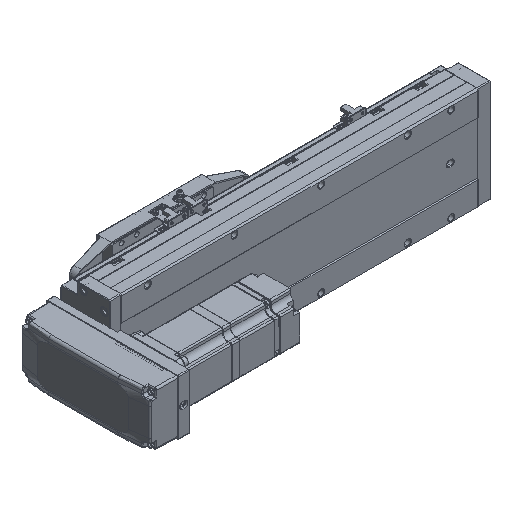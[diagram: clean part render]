
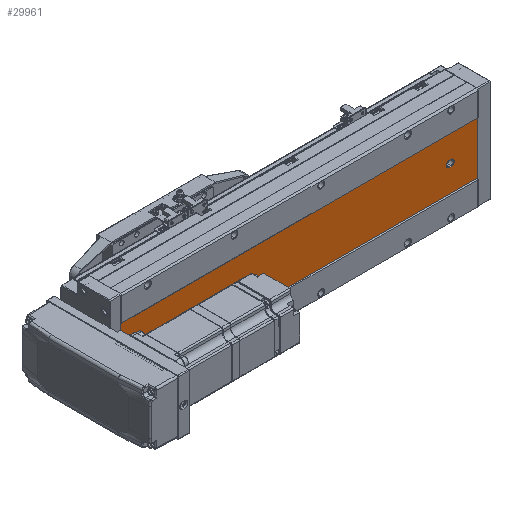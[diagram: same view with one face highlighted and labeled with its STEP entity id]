
A CAD part, isometric view. The second image highlights one B-rep face of the part: STEP entity #29961.
In plain terms, the highlighted planar face has unit normal (0, -1, 0).
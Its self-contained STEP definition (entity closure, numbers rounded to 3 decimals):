
#27 = CARTESIAN_POINT ( 'NONE',  ( -39.892, -52.848, 281. ) ) ;
#2461 = EDGE_LOOP ( 'NONE', ( #71312, #59655 ) ) ;
#2577 = EDGE_LOOP ( 'NONE', ( #58741, #46847, #66175, #42325 ) ) ;
#2635 = CARTESIAN_POINT ( 'NONE',  ( -39.892, -52.848, 381. ) ) ;
#2877 = VERTEX_POINT ( 'NONE', #9969 ) ;
#3880 = EDGE_CURVE ( 'NONE', #37691, #49105, #65696, .T. ) ;
#4257 = AXIS2_PLACEMENT_3D ( 'NONE', #56110, #12144, #67209 ) ;
#5388 = EDGE_CURVE ( 'NONE', #64714, #54313, #25136, .T. ) ;
#5497 = EDGE_CURVE ( 'NONE', #65164, #64714, #60189, .T. ) ;
#5591 = CARTESIAN_POINT ( 'NONE',  ( -69.892, -52.848, 411. ) ) ;
#6230 = EDGE_CURVE ( 'NONE', #71425, #2877, #43583, .T. ) ;
#6611 = CIRCLE ( 'NONE', #30178, 3.5 ) ;
#7094 = CARTESIAN_POINT ( 'NONE',  ( -39.892, -52.848, 26.5 ) ) ;
#7790 = EDGE_LOOP ( 'NONE', ( #20311, #13518 ) ) ;
#9260 = VECTOR ( 'NONE', #11739, 1000. ) ;
#9312 = CARTESIAN_POINT ( 'NONE',  ( -69.892, -52.848, 0. ) ) ;
#9832 = CARTESIAN_POINT ( 'NONE',  ( -69.892, -52.848, 411. ) ) ;
#9969 = CARTESIAN_POINT ( 'NONE',  ( -69.892, -52.848, 0. ) ) ;
#11087 = DIRECTION ( 'NONE',  ( 0., 0., 1. ) ) ;
#11739 = DIRECTION ( 'NONE',  ( 0., 0., 1. ) ) ;
#12144 = DIRECTION ( 'NONE',  ( 0., 1., 0. ) ) ;
#12425 = VERTEX_POINT ( 'NONE', #49520 ) ;
#13518 = ORIENTED_EDGE ( 'NONE', *, *, #3880, .T. ) ;
#15503 = VERTEX_POINT ( 'NONE', #33104 ) ;
#15842 = CARTESIAN_POINT ( 'NONE',  ( -9.892, -52.848, 411. ) ) ;
#15928 = DIRECTION ( 'NONE',  ( 1., 0., 0. ) ) ;
#16330 = DIRECTION ( 'NONE',  ( 0., 0., -1. ) ) ;
#16457 = LINE ( 'NONE', #9312, #59503 ) ;
#16673 = AXIS2_PLACEMENT_3D ( 'NONE', #63813, #52238, #40212 ) ;
#16804 = DIRECTION ( 'NONE',  ( 0., 1., 0. ) ) ;
#17876 = ORIENTED_EDGE ( 'NONE', *, *, #70402, .T. ) ;
#18229 = CARTESIAN_POINT ( 'NONE',  ( -69.892, -52.848, 411. ) ) ;
#19267 = DIRECTION ( 'NONE',  ( 0., 0., 1. ) ) ;
#19452 = VECTOR ( 'NONE', #16330, 1000. ) ;
#19861 = DIRECTION ( 'NONE',  ( 0., 0., 1. ) ) ;
#20311 = ORIENTED_EDGE ( 'NONE', *, *, #64440, .T. ) ;
#21467 = CARTESIAN_POINT ( 'NONE',  ( -36.392, -52.848, 30. ) ) ;
#22127 = ORIENTED_EDGE ( 'NONE', *, *, #5497, .T. ) ;
#22797 = VECTOR ( 'NONE', #72150, 1000. ) ;
#23066 = CARTESIAN_POINT ( 'NONE',  ( -39.892, -52.848, 384.5 ) ) ;
#23372 = VERTEX_POINT ( 'NONE', #65799 ) ;
#23843 = FACE_BOUND ( 'NONE', #24535, .T. ) ;
#23846 = EDGE_CURVE ( 'NONE', #23372, #38112, #54380, .T. ) ;
#24271 = VERTEX_POINT ( 'NONE', #67787 ) ;
#24535 = EDGE_LOOP ( 'NONE', ( #17876, #22127, #62875, #63284, #52079 ) ) ;
#25136 = CIRCLE ( 'NONE', #16673, 3.5 ) ;
#26250 = CARTESIAN_POINT ( 'NONE',  ( -36.392, -52.848, 411. ) ) ;
#29961 = ADVANCED_FACE ( 'NONE', ( #23843, #51894, #44003, #53695 ), #59930, .F. ) ;
#30178 = AXIS2_PLACEMENT_3D ( 'NONE', #55787, #67125, #11087 ) ;
#31793 = LINE ( 'NONE', #15842, #19452 ) ;
#33104 = CARTESIAN_POINT ( 'NONE',  ( -43.392, -52.848, 30. ) ) ;
#33578 = CARTESIAN_POINT ( 'NONE',  ( -69.892, -52.848, 411. ) ) ;
#33613 = AXIS2_PLACEMENT_3D ( 'NONE', #69337, #41265, #46471 ) ;
#34414 = EDGE_CURVE ( 'NONE', #15503, #24271, #39100, .T. ) ;
#37691 = VERTEX_POINT ( 'NONE', #23066 ) ;
#37802 = DIRECTION ( 'NONE',  ( 0., 0., 1. ) ) ;
#38112 = VERTEX_POINT ( 'NONE', #49454 ) ;
#38239 = AXIS2_PLACEMENT_3D ( 'NONE', #52875, #58512, #19267 ) ;
#38494 = CARTESIAN_POINT ( 'NONE',  ( -36.392, -52.848, 32. ) ) ;
#39100 = LINE ( 'NONE', #67773, #9260 ) ;
#40056 = VECTOR ( 'NONE', #55682, 1000. ) ;
#40212 = DIRECTION ( 'NONE',  ( 0., 0., 1. ) ) ;
#40430 = AXIS2_PLACEMENT_3D ( 'NONE', #9832, #71720, #37802 ) ;
#41265 = DIRECTION ( 'NONE',  ( 0., 1., 0. ) ) ;
#41696 = VECTOR ( 'NONE', #54210, 1000. ) ;
#42325 = ORIENTED_EDGE ( 'NONE', *, *, #6230, .T. ) ;
#43162 = EDGE_CURVE ( 'NONE', #51116, #12425, #31793, .T. ) ;
#43583 = LINE ( 'NONE', #33578, #40056 ) ;
#44003 = FACE_BOUND ( 'NONE', #7790, .T. ) ;
#46471 = DIRECTION ( 'NONE',  ( 0., 0., 1. ) ) ;
#46847 = ORIENTED_EDGE ( 'NONE', *, *, #43162, .F. ) ;
#47399 = EDGE_CURVE ( 'NONE', #2877, #12425, #16457, .T. ) ;
#48422 = CIRCLE ( 'NONE', #33613, 3.5 ) ;
#49105 = VERTEX_POINT ( 'NONE', #62031 ) ;
#49454 = CARTESIAN_POINT ( 'NONE',  ( -39.892, -52.848, 284.5 ) ) ;
#49520 = CARTESIAN_POINT ( 'NONE',  ( -9.892, -52.848, 0. ) ) ;
#51116 = VERTEX_POINT ( 'NONE', #58801 ) ;
#51894 = FACE_BOUND ( 'NONE', #2461, .T. ) ;
#52079 = ORIENTED_EDGE ( 'NONE', *, *, #34414, .T. ) ;
#52238 = DIRECTION ( 'NONE',  ( 0., 1., 0. ) ) ;
#52875 = CARTESIAN_POINT ( 'NONE',  ( -39.892, -52.848, 381. ) ) ;
#53695 = FACE_OUTER_BOUND ( 'NONE', #2577, .T. ) ;
#53754 = DIRECTION ( 'NONE',  ( 0., 1., 0. ) ) ;
#54210 = DIRECTION ( 'NONE',  ( 0., 0., -1. ) ) ;
#54313 = VERTEX_POINT ( 'NONE', #7094 ) ;
#54380 = CIRCLE ( 'NONE', #66947, 3.5 ) ;
#54720 = EDGE_CURVE ( 'NONE', #71425, #51116, #67590, .T. ) ;
#55682 = DIRECTION ( 'NONE',  ( 0., 0., -1. ) ) ;
#55787 = CARTESIAN_POINT ( 'NONE',  ( -39.892, -52.848, 32. ) ) ;
#56110 = CARTESIAN_POINT ( 'NONE',  ( -39.892, -52.848, 281. ) ) ;
#56746 = CIRCLE ( 'NONE', #4257, 3.5 ) ;
#58512 = DIRECTION ( 'NONE',  ( 0., 1., 0. ) ) ;
#58741 = ORIENTED_EDGE ( 'NONE', *, *, #47399, .T. ) ;
#58801 = CARTESIAN_POINT ( 'NONE',  ( -9.892, -52.848, 411. ) ) ;
#59503 = VECTOR ( 'NONE', #15928, 1000. ) ;
#59655 = ORIENTED_EDGE ( 'NONE', *, *, #69841, .T. ) ;
#59930 = PLANE ( 'NONE',  #40430 ) ;
#60189 = LINE ( 'NONE', #26250, #41696 ) ;
#60584 = CIRCLE ( 'NONE', #38239, 3.5 ) ;
#61971 = DIRECTION ( 'NONE',  ( 0., 0., 1. ) ) ;
#62031 = CARTESIAN_POINT ( 'NONE',  ( -39.892, -52.848, 377.5 ) ) ;
#62875 = ORIENTED_EDGE ( 'NONE', *, *, #5388, .T. ) ;
#63284 = ORIENTED_EDGE ( 'NONE', *, *, #72774, .T. ) ;
#63813 = CARTESIAN_POINT ( 'NONE',  ( -39.892, -52.848, 30. ) ) ;
#64440 = EDGE_CURVE ( 'NONE', #49105, #37691, #60584, .T. ) ;
#64714 = VERTEX_POINT ( 'NONE', #21467 ) ;
#65164 = VERTEX_POINT ( 'NONE', #38494 ) ;
#65696 = CIRCLE ( 'NONE', #66925, 3.5 ) ;
#65799 = CARTESIAN_POINT ( 'NONE',  ( -39.892, -52.848, 277.5 ) ) ;
#66175 = ORIENTED_EDGE ( 'NONE', *, *, #54720, .F. ) ;
#66925 = AXIS2_PLACEMENT_3D ( 'NONE', #2635, #53754, #19861 ) ;
#66947 = AXIS2_PLACEMENT_3D ( 'NONE', #27, #16804, #61971 ) ;
#67125 = DIRECTION ( 'NONE',  ( 0., 1., 0. ) ) ;
#67209 = DIRECTION ( 'NONE',  ( 0., 0., 1. ) ) ;
#67590 = LINE ( 'NONE', #5591, #22797 ) ;
#67773 = CARTESIAN_POINT ( 'NONE',  ( -43.392, -52.848, 411. ) ) ;
#67787 = CARTESIAN_POINT ( 'NONE',  ( -43.392, -52.848, 32. ) ) ;
#69337 = CARTESIAN_POINT ( 'NONE',  ( -39.892, -52.848, 30. ) ) ;
#69841 = EDGE_CURVE ( 'NONE', #38112, #23372, #56746, .T. ) ;
#70402 = EDGE_CURVE ( 'NONE', #24271, #65164, #6611, .T. ) ;
#71312 = ORIENTED_EDGE ( 'NONE', *, *, #23846, .T. ) ;
#71425 = VERTEX_POINT ( 'NONE', #18229 ) ;
#71720 = DIRECTION ( 'NONE',  ( 0., 1., 0. ) ) ;
#72150 = DIRECTION ( 'NONE',  ( 1., 0., 0. ) ) ;
#72774 = EDGE_CURVE ( 'NONE', #54313, #15503, #48422, .T. ) ;
